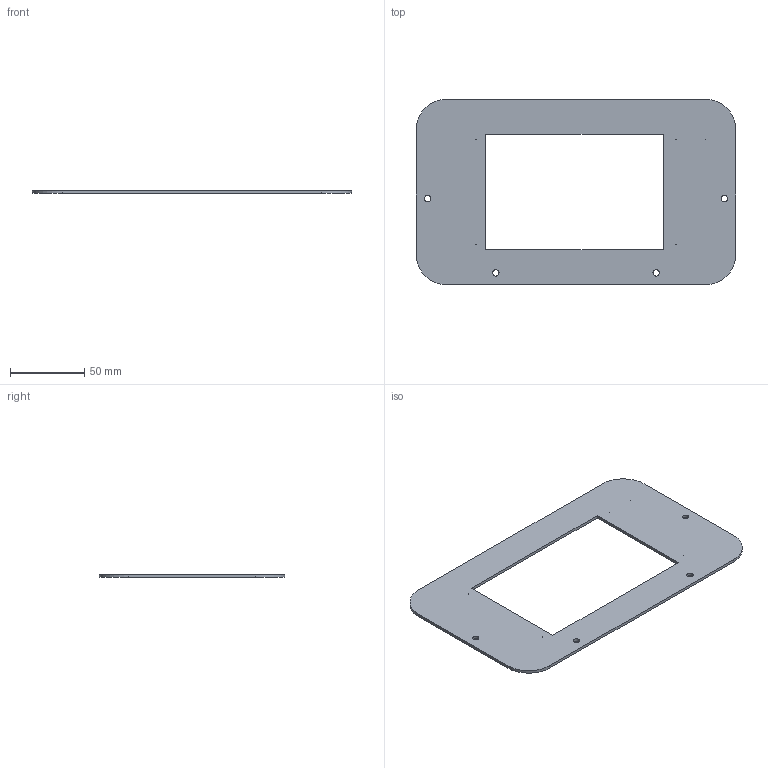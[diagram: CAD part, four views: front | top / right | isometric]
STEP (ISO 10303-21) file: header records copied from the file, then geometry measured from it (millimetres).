
FILE_DESCRIPTION (( 'STEP AP203' ), '1' );
FILE_NAME ('ORW-71.24.20.001 Ïàíåëü ïåðåäíÿÿ.STEP', '2024-11-12T09:26:05', ( 'Àíäðåé' ), ( '' ), 'SwSTEP 2.0', 'SolidWorks 2023', '' );
FILE_SCHEMA (( 'CONFIG_CONTROL_DESIGN' ));
Length unit declared in the file: millimetre
Products named in the file (1): ORW-71.24.20.001 Панель передняя
Bounding box: 215 x 125 x 2 mm (x, y, z)
Volume: 34337.2 mm3; surface area: 36542.2 mm2
Topology: 1 solids, 1 shells, 23 faces, 68 edges, 47 vertices
Faces by surface type: cylinder 13, plane 10
Full cylindrical faces by diameter (mm): 0.5 x5, 4.3 x4
Entity records: 815 total; most frequent: DIRECTION 128, CARTESIAN_POINT 120, ORIENTED_EDGE 108, EDGE_CURVE 54, EDGE_LOOP 52, AXIS2_PLACEMENT_3D 50, VERTEX_POINT 42, FACE_OUTER_BOUND 32
